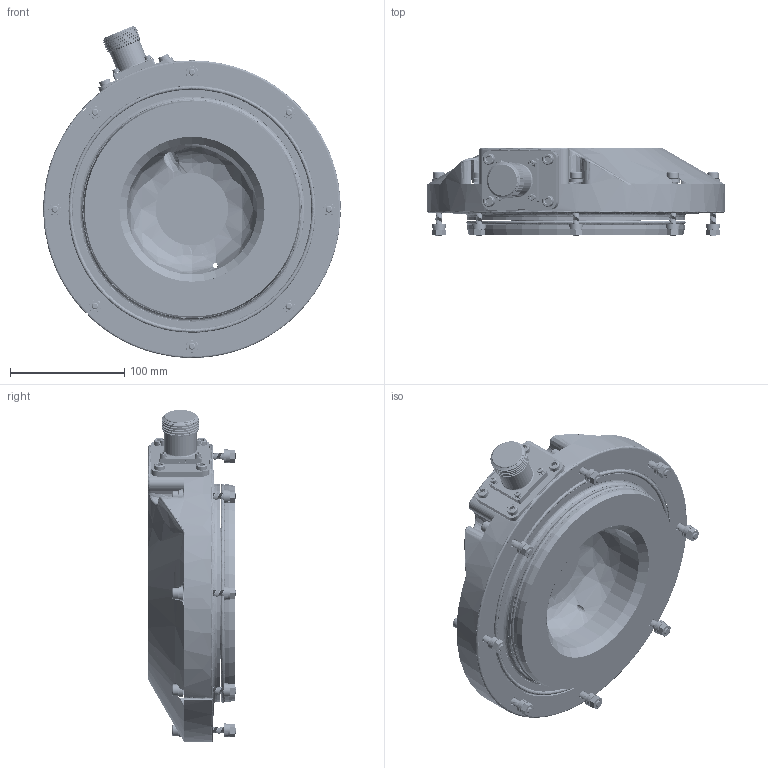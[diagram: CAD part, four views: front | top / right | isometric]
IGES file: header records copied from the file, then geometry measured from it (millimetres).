
Start section: SolidWorks IGES file using analytic representation for surfaces
Global section: file name: C:\Users\igavrilyuk\Desktop\solidworks files\customs\Hadal - Sea Devil endcap with Birns connector\717-4063-00 exterior surfaces only.IGS; native system: SolidWorks 2011; preprocessor: SolidWorks 2011; author: igavrilyuk; date: 110901.113236; units: inch
Bounding box: 260.3 x 77.37 x 290.49 mm (x, y, z)
Surface area: 215635.3 mm2 (no closed solid volume)
Topology: 0 solids, 0 shells, 1726 faces, 38030 edges, 38029 vertices
Faces by surface type: revolution 1348, bspline 378
